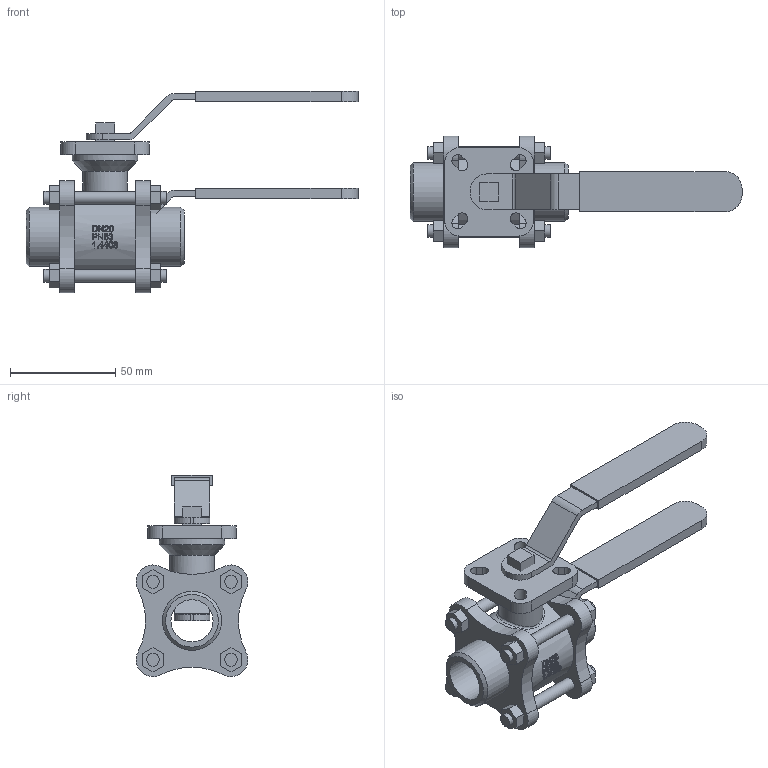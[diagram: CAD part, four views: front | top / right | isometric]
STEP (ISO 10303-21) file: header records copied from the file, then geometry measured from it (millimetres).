
FILE_DESCRIPTION( ( 'Unknown' ), '1' );
FILE_NAME( 'W:/ECCUA/ROOTSI BPS 3D vidinad/Kuulkraanid/Roostevaba kuulkraanid/Ball valve BPS 2421/Ball valve with hand lever BPS/STEP format/BPS 2421020 ball valve DN20.stp', 'Unknown', ( 'Unknown' ), ( 'Unknown' ), 'PSStep 10.1', 'Unknown', ' ' );
FILE_SCHEMA( ( 'AUTOMOTIVE_DESIGN { 1 0 10303 214 1 1 1 1 }' ) );
Length unit declared in the file: millimetre
Products named in the file (3): Assem1; Hand lever for ball valve DN8-20 BPS 2420-21; BPS 2421020 ball valve DN20
Bounding box: 157.5 x 52.99 x 95.5 mm (x, y, z)
Volume: 210470.2 mm3; surface area: 70855.3 mm2
Topology: 4 solids, 4 shells, 570 faces, 1414 edges, 938 vertices
Faces by surface type: plane 332, cylinder 156, bspline 76, cone 6
Full cylindrical faces by diameter (mm): 3 x2, 6 x24, 20 x2, 21 x2, 28 x4, 31 x2, 42 x2
Entity records: 14592 total; most frequent: CARTESIAN_POINT 6137, ORIENTED_EDGE 1340, DIRECTION 1016, EDGE_CURVE 670, VERTEX_POINT 462, EDGE_LOOP 378, AXIS2_PLACEMENT_3D 376, FACE_OUTER_BOUND 312
